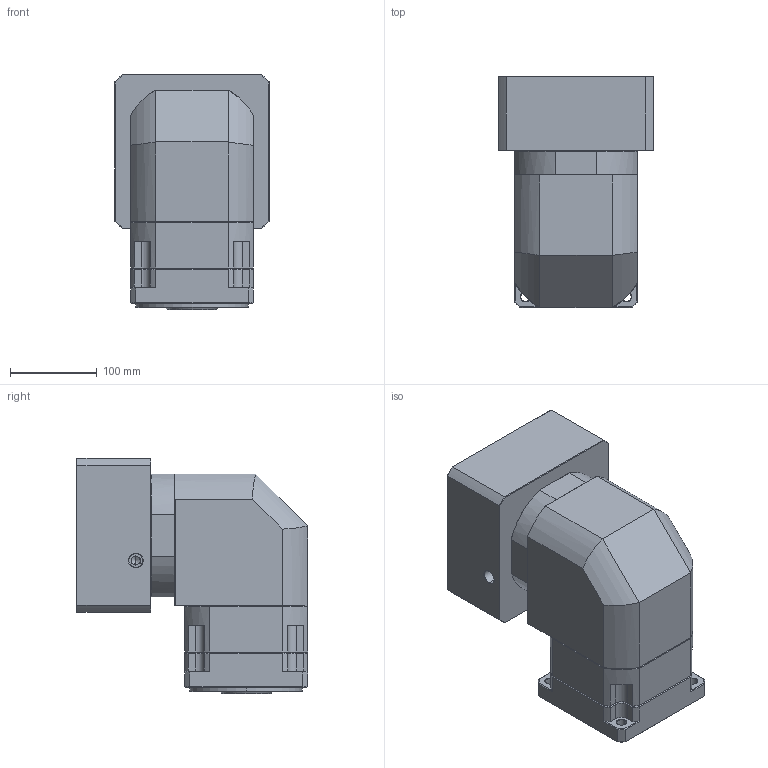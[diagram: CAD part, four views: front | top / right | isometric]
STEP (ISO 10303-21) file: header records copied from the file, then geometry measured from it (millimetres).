
FILE_DESCRIPTION (( 'STEP AP214' ), '1' );
FILE_NAME ('ZBR142A-K35-L1-P2-42-114.3-200-M12.step', '2023-09-02T07:16:07', ( '' ), ( '' ), 'SwSTEP 2.0', 'SolidWorks 2016', '' );
FILE_SCHEMA (( 'AUTOMOTIVE_DESIGN' ));
Length unit declared in the file: millimetre
Products named in the file (1): ZBR142A-K35-L1-P2-42-114.3-200-M12
Bounding box: 178 x 267 x 271.7 mm (x, y, z)
Volume: 6637934.9 mm3; surface area: 456254.7 mm2
Topology: 6 solids, 6 shells, 2239 faces, 5883 edges, 3750 vertices
Faces by surface type: plane 1113, bspline 403, cylinder 377, cone 326, torus 20
Entity records: 121882 total; most frequent: CARTESIAN_POINT 45193, ORIENTED_EDGE 11710, DIRECTION 9271, EDGE_CURVE 5855, VECTOR 3839, LINE 3839, VERTEX_POINT 3750, AXIS2_PLACEMENT_3D 2716
